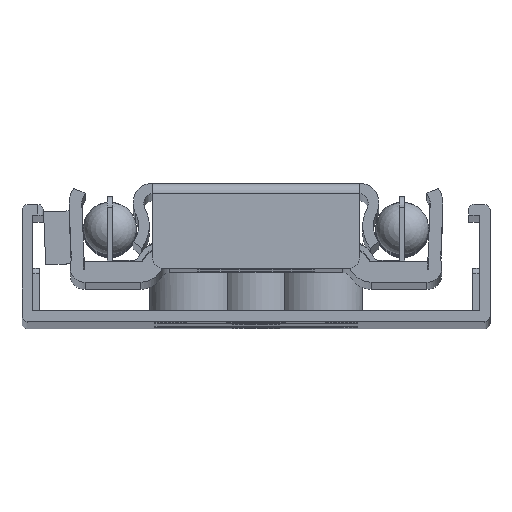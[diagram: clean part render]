
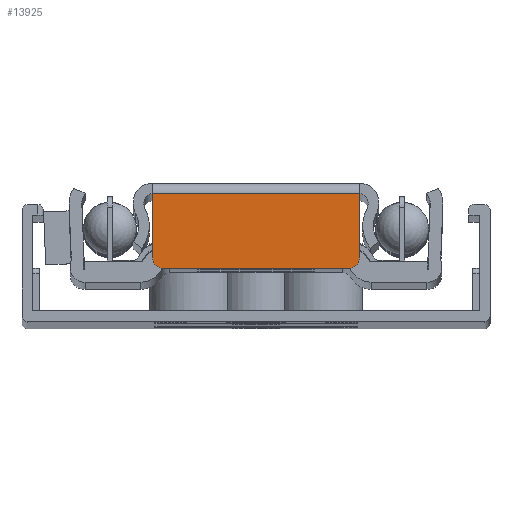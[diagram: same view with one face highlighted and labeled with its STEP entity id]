
A CAD part, top view. The second image highlights one B-rep face of the part: STEP entity #13925.
In plain terms, the highlighted planar face has unit normal (0, 0, 1).
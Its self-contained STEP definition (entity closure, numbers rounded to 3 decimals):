
#669=PLANE('',#15320);
#1366=FACE_OUTER_BOUND('',#2219,.T.);
#2219=EDGE_LOOP('',(#12807,#12808,#12809,#12810,#12811,#12812));
#3560=LINE('',#23654,#4905);
#3561=LINE('',#23657,#4906);
#3562=LINE('',#23661,#4907);
#3563=LINE('',#23664,#4908);
#4905=VECTOR('',#19300,10.);
#4906=VECTOR('',#19303,10.);
#4907=VECTOR('',#19306,10.);
#4908=VECTOR('',#19309,10.);
#5570=CIRCLE('',#15321,1.);
#5571=CIRCLE('',#15322,1.);
#6886=VERTEX_POINT('',#23650);
#6887=VERTEX_POINT('',#23652);
#6888=VERTEX_POINT('',#23656);
#6889=VERTEX_POINT('',#23658);
#6890=VERTEX_POINT('',#23660);
#6891=VERTEX_POINT('',#23662);
#8878=EDGE_CURVE('',#6887,#6886,#3560,.T.);
#8879=EDGE_CURVE('',#6887,#6888,#3561,.T.);
#8880=EDGE_CURVE('',#6889,#6888,#5570,.T.);
#8881=EDGE_CURVE('',#6889,#6890,#3562,.T.);
#8882=EDGE_CURVE('',#6891,#6890,#5571,.T.);
#8883=EDGE_CURVE('',#6886,#6891,#3563,.T.);
#12807=ORIENTED_EDGE('',*,*,#8878,.F.);
#12808=ORIENTED_EDGE('',*,*,#8879,.T.);
#12809=ORIENTED_EDGE('',*,*,#8880,.F.);
#12810=ORIENTED_EDGE('',*,*,#8881,.T.);
#12811=ORIENTED_EDGE('',*,*,#8882,.F.);
#12812=ORIENTED_EDGE('',*,*,#8883,.F.);
#13925=ADVANCED_FACE('',(#1366),#669,.T.);
#15320=AXIS2_PLACEMENT_3D('',#23655,#19301,#19302);
#15321=AXIS2_PLACEMENT_3D('',#23659,#19304,#19305);
#15322=AXIS2_PLACEMENT_3D('',#23663,#19307,#19308);
#19300=DIRECTION('',(-1.,0.,0.));
#19301=DIRECTION('center_axis',(0.,0.,1.));
#19302=DIRECTION('ref_axis',(1.,0.,0.));
#19303=DIRECTION('',(0.,1.,0.));
#19304=DIRECTION('center_axis',(0.,0.,-1.));
#19305=DIRECTION('ref_axis',(0.707,0.707,0.));
#19306=DIRECTION('',(-1.,0.,0.));
#19307=DIRECTION('center_axis',(0.,0.,-1.));
#19308=DIRECTION('ref_axis',(-0.707,0.707,0.));
#19309=DIRECTION('',(0.,1.,0.));
#23650=CARTESIAN_POINT('',(4.892,-4.95,399.));
#23652=CARTESIAN_POINT('',(24.354,-4.95,399.));
#23654=CARTESIAN_POINT('',(19.501,-4.95,399.));
#23655=CARTESIAN_POINT('Origin',(24.354,-5.95,399.));
#23656=CARTESIAN_POINT('',(24.354,1.05,399.));
#23657=CARTESIAN_POINT('',(24.354,-5.95,399.));
#23658=CARTESIAN_POINT('',(23.354,2.05,399.));
#23659=CARTESIAN_POINT('Origin',(23.354,1.05,399.));
#23660=CARTESIAN_POINT('',(5.892,2.05,399.));
#23661=CARTESIAN_POINT('',(24.354,2.05,399.));
#23662=CARTESIAN_POINT('',(4.892,1.05,399.));
#23663=CARTESIAN_POINT('Origin',(5.892,1.05,399.));
#23664=CARTESIAN_POINT('',(4.892,-5.95,399.));
